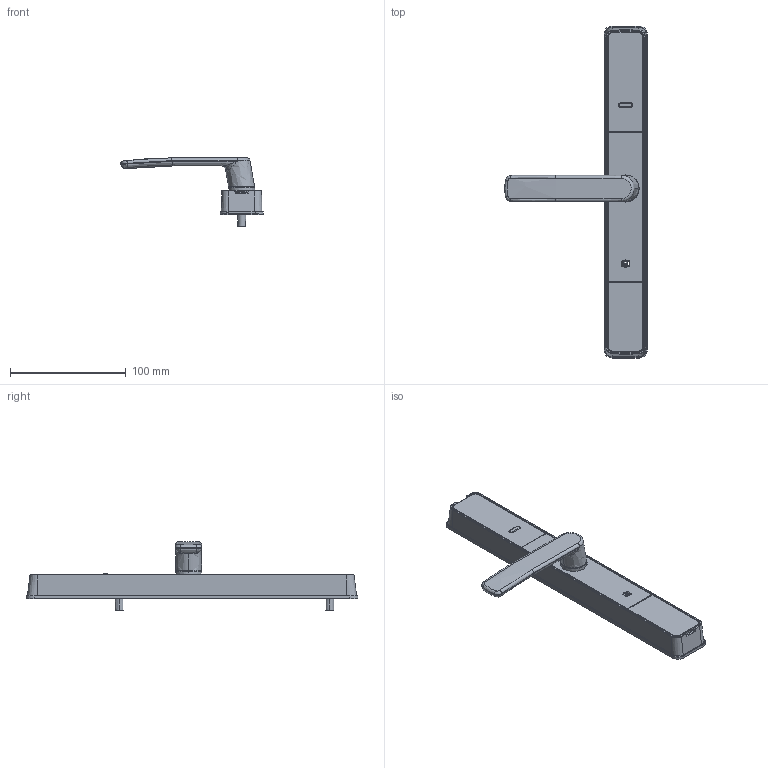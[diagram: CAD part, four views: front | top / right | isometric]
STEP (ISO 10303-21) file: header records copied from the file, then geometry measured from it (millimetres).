
FILE_DESCRIPTION (( 'STEP AP214' ), '1' );
FILE_NAME ('Internal Escutcheon.STEP', '2024-06-10T23:09:29', ( '' ), ( '' ), 'SwSTEP 2.0', 'SolidWorks 2022', '' );
FILE_SCHEMA (( 'AUTOMOTIVE_DESIGN' ));
Length unit declared in the file: millimetre
Products named in the file (9): D001431887-001; D001448438-001; D001431895-001; D001431869-001; D001431894-001; D001113229-001; Internal Escutcheon; D001431893-001; D001431889-001
Assembly tree (8 placements, depth 3):
  Internal Escutcheon
    D001431887-001
    D001448438-001
      D001431889-001
      D001113229-001
    D001431869-001
    D001431894-001
    D001431895-001
    D001431893-001
Bounding box: 123.06 x 286.8 x 58.95 mm (x, y, z)
Volume: 110630.4 mm3; surface area: 115441.7 mm2
Topology: 7 solids, 7 shells, 5462 faces, 14533 edges, 9203 vertices
Faces by surface type: bspline 2191, plane 1538, cylinder 1197, cone 254, torus 180, sphere 102
Entity records: 224987 total; most frequent: CARTESIAN_POINT 107976, ORIENTED_EDGE 28936, DIRECTION 17406, EDGE_CURVE 14468, VERTEX_POINT 9203, VECTOR 6232, LINE 6232, EDGE_LOOP 5737
